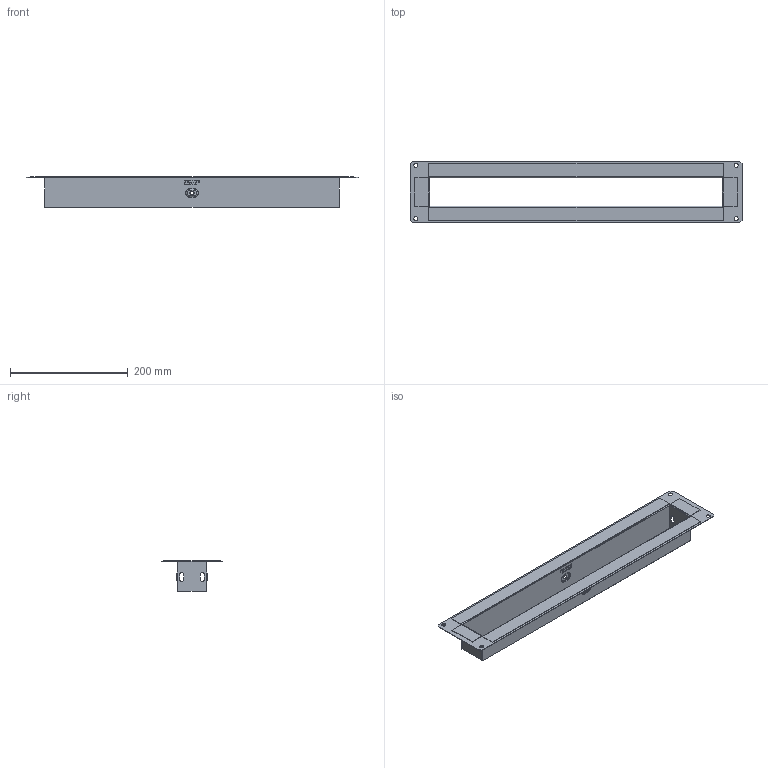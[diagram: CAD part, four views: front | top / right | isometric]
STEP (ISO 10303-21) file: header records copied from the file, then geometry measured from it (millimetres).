
FILE_DESCRIPTION (( 'STEP AP203' ), '1' );
FILE_NAME ('f50500_捘.STEP', '2020-01-23T12:31:46', ( '' ), ( '' ), 'SwSTEP 2.0', 'SolidWorks 2016', '' );
FILE_SCHEMA (( 'CONFIG_CONTROL_DESIGN' ));
Length unit declared in the file: millimetre
Products named in the file (9): f50500_2; f50300_3; f50500_捘; f50500_1
Assembly tree (5 placements, depth 2):
  f50500_2
  f50300_3
  f50300_3
  f50500_捘
    f50500_1
    f50500_2  x2
    f50300_3  x2
  f50500_1
Bounding box: 565 x 105 x 51.5 mm (x, y, z)
Volume: 92209 mm3; surface area: 234935.7 mm2
Topology: 5 solids, 5 shells, 306 faces, 792 edges, 512 vertices
Faces by surface type: plane 212, cylinder 60, bspline 18, torus 16
Entity records: 6262 total; most frequent: CARTESIAN_POINT 1358, ORIENTED_EDGE 852, DIRECTION 816, EDGE_CURVE 426, VECTOR 328, LINE 328, VERTEX_POINT 276, AXIS2_PLACEMENT_3D 244
